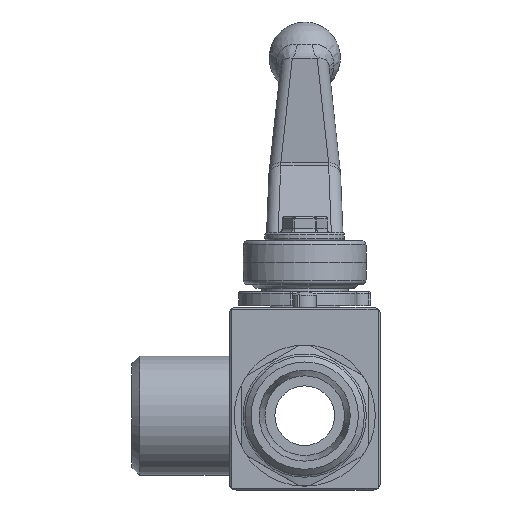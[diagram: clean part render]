
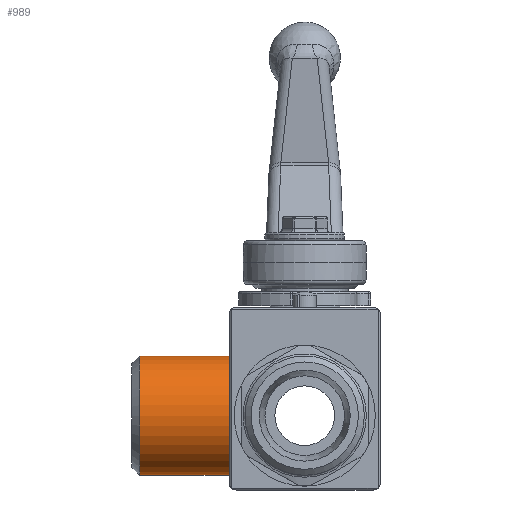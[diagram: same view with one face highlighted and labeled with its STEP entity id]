
A CAD part, front view. The second image highlights one B-rep face of the part: STEP entity #989.
In plain terms, the highlighted cylindrical face has radius 15 mm (diameter 30 mm), a full revolution.
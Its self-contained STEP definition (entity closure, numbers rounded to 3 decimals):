
#989 = ADVANCED_FACE( '', ( #2063, #2064 ), #2065, .T. );
#2063 = FACE_OUTER_BOUND( '', #3723, .T. );
#2064 = FACE_OUTER_BOUND( '', #3724, .T. );
#2065 = CYLINDRICAL_SURFACE( '', #3725, 15. );
#3723 = EDGE_LOOP( '', ( #6377 ) );
#3724 = EDGE_LOOP( '', ( #6378 ) );
#3725 = AXIS2_PLACEMENT_3D( '', #6379, #6380, #6381 );
#6377 = ORIENTED_EDGE( '', *, *, #8786, .T. );
#6378 = ORIENTED_EDGE( '', *, *, #8369, .F. );
#6379 = CARTESIAN_POINT( '', ( 0., 27.5, 0. ) );
#6380 = DIRECTION( '', ( 0., 1., 0. ) );
#6381 = DIRECTION( '', ( 0., 0., -1. ) );
#8369 = EDGE_CURVE( '', #9904, #9904, #9905, .T. );
#8786 = EDGE_CURVE( '', #10500, #10500, #10501, .F. );
#9904 = VERTEX_POINT( '', #12372 );
#9905 = CIRCLE( '', #12373, 15. );
#10500 = VERTEX_POINT( '', #13389 );
#10501 = CIRCLE( '', #13390, 15. );
#12372 = CARTESIAN_POINT( '', ( 0., 2., -15. ) );
#12373 = AXIS2_PLACEMENT_3D( '', #14826, #14827, #14828 );
#13389 = CARTESIAN_POINT( '', ( 0., 25.5, 15. ) );
#13390 = AXIS2_PLACEMENT_3D( '', #15369, #15370, #15371 );
#14826 = CARTESIAN_POINT( '', ( 0., 2., 0. ) );
#14827 = DIRECTION( '', ( 0., -1., 0. ) );
#14828 = DIRECTION( '', ( 0., 0., -1. ) );
#15369 = CARTESIAN_POINT( '', ( 0., 25.5, 0. ) );
#15370 = DIRECTION( '', ( 0., 1., 0. ) );
#15371 = DIRECTION( '', ( 0., 0., 1. ) );
